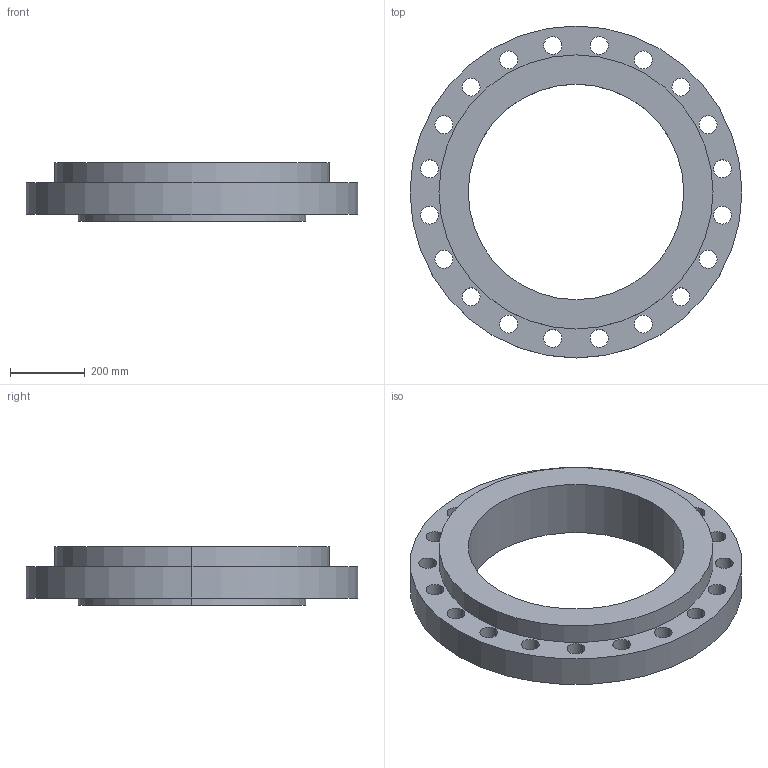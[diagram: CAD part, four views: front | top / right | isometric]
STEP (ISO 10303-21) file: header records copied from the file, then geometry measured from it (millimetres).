
FILE_DESCRIPTION (( 'STEP AP214' ), '1' );
FILE_NAME ('PN40 DN600 Type 04 in 34 - (Type A Face).STEP', '2018-12-28T23:35:59', ( '' ), ( '' ), 'SwSTEP 2.0', 'SolidWorks 2019', '' );
FILE_SCHEMA (( 'AUTOMOTIVE_DESIGN' ));
Length unit declared in the file: millimetre
Products named in the file (1): PN40 DN600 Type 04 in 34 - (Type A Face)
Bounding box: 890 x 890 x 158 mm (x, y, z)
Volume: 31897045.2 mm3; surface area: 2010307 mm2
Topology: 2 solids, 2 shells, 61 faces, 162 edges, 106 vertices
Faces by surface type: cylinder 50, cone 6, plane 5
Entity records: 2085 total; most frequent: DIRECTION 392, CARTESIAN_POINT 330, ORIENTED_EDGE 324, AXIS2_PLACEMENT_3D 168, EDGE_CURVE 162, CIRCLE 106, EDGE_LOOP 106, VERTEX_POINT 106
